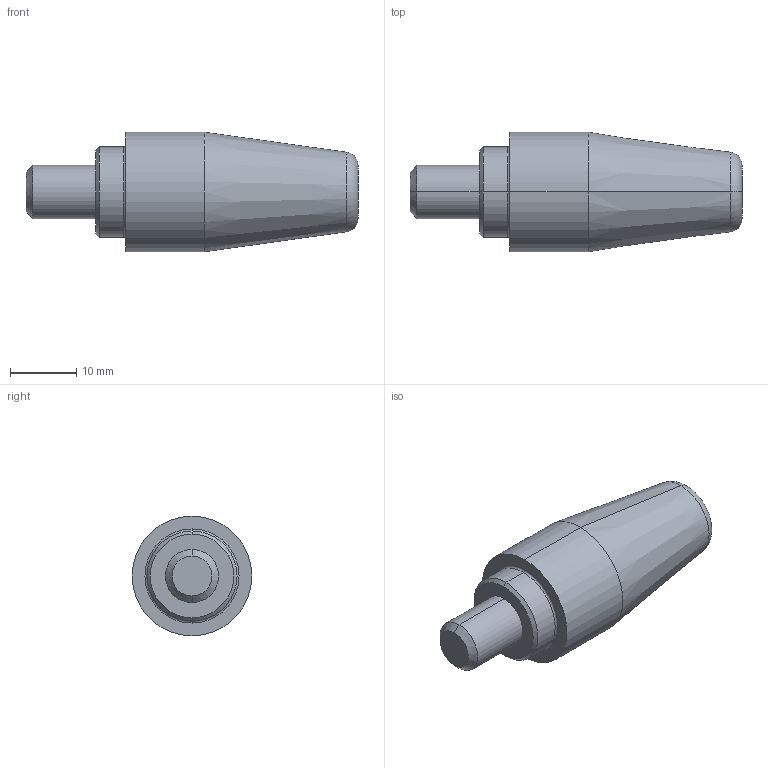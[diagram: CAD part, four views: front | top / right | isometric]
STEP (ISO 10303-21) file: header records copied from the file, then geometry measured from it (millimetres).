
FILE_DESCRIPTION (( 'STEP AP214' ), '1' );
FILE_NAME ('64086.STEP', '2021-10-29T10:06:25', ( '' ), ( '' ), 'SwSTEP 2.0', 'SolidWorks 2019', '' );
FILE_SCHEMA (( 'AUTOMOTIVE_DESIGN' ));
Length unit declared in the file: millimetre
Products named in the file (1): 64086
Bounding box: 50 x 18 x 18 mm (x, y, z)
Volume: 8671.1 mm3; surface area: 2845.7 mm2
Topology: 2 solids, 2 shells, 23 faces, 42 edges, 24 vertices
Faces by surface type: cone 8, cylinder 6, plane 5, torus 4
Entity records: 864 total; most frequent: DIRECTION 118, CARTESIAN_POINT 90, ORIENTED_EDGE 84, AXIS2_PLACEMENT_3D 52, EDGE_CURVE 42, CIRCLE 28, UNCERTAINTY_MEASURE_WITH_UNIT 27, MECHANICAL_DESIGN_GEOMETRIC_PRESENTATION_REPRESENTATION 26
